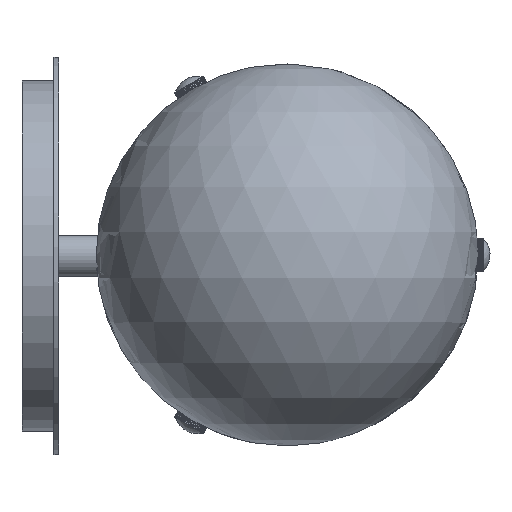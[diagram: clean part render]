
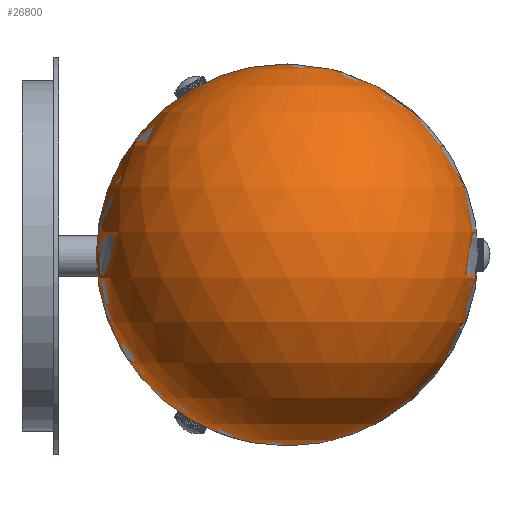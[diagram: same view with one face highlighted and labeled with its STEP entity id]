
A CAD part, top view. The second image highlights one B-rep face of the part: STEP entity #26800.
In plain terms, the highlighted spherical face has radius 60 mm.
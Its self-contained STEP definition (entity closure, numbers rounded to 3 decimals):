
#1815=FACE_BOUND('',#5654,.T.);
#1828=SPHERICAL_SURFACE('',#29146,60.);
#2388=CIRCLE('',#29145,59.537);
#2389=CIRCLE('',#29147,60.);
#4006=FACE_OUTER_BOUND('',#5653,.T.);
#5653=EDGE_LOOP('',(#24943,#24944));
#5654=EDGE_LOOP('',(#24945));
#14071=VERTEX_POINT('',#46373);
#14072=VERTEX_POINT('',#46377);
#14073=VERTEX_POINT('',#46378);
#17699=EDGE_CURVE('',#14071,#14071,#2388,.T.);
#17700=EDGE_CURVE('',#14072,#14073,#2389,.T.);
#24943=ORIENTED_EDGE('',*,*,#17700,.T.);
#24944=ORIENTED_EDGE('',*,*,#17700,.F.);
#24945=ORIENTED_EDGE('',*,*,#17699,.F.);
#26800=ADVANCED_FACE('',(#4006,#1815),#1828,.T.);
#29145=AXIS2_PLACEMENT_3D('',#46375,#36347,#36348);
#29146=AXIS2_PLACEMENT_3D('',#46376,#36349,#36350);
#29147=AXIS2_PLACEMENT_3D('',#46379,#36351,#36352);
#36347=DIRECTION('center_axis',(0.,0.,
-1.));
#36348=DIRECTION('ref_axis',(-1.,0.,0.));
#36349=DIRECTION('center_axis',(0.,-1.,0.));
#36350=DIRECTION('ref_axis',(1.,0.,0.));
#36351=DIRECTION('center_axis',(0.,0.,
-1.));
#36352=DIRECTION('ref_axis',(-1.,0.,0.));
#46373=CARTESIAN_POINT('',(0.,-59.537,443.627));
#46375=CARTESIAN_POINT('Origin',(0.,0.,
443.627));
#46376=CARTESIAN_POINT('Origin',(0.,0.,
451.069));
#46377=CARTESIAN_POINT('',(0.,-60.,451.069));
#46378=CARTESIAN_POINT('',(0.,60.,451.069));
#46379=CARTESIAN_POINT('Origin',(0.,0.,
451.069));
